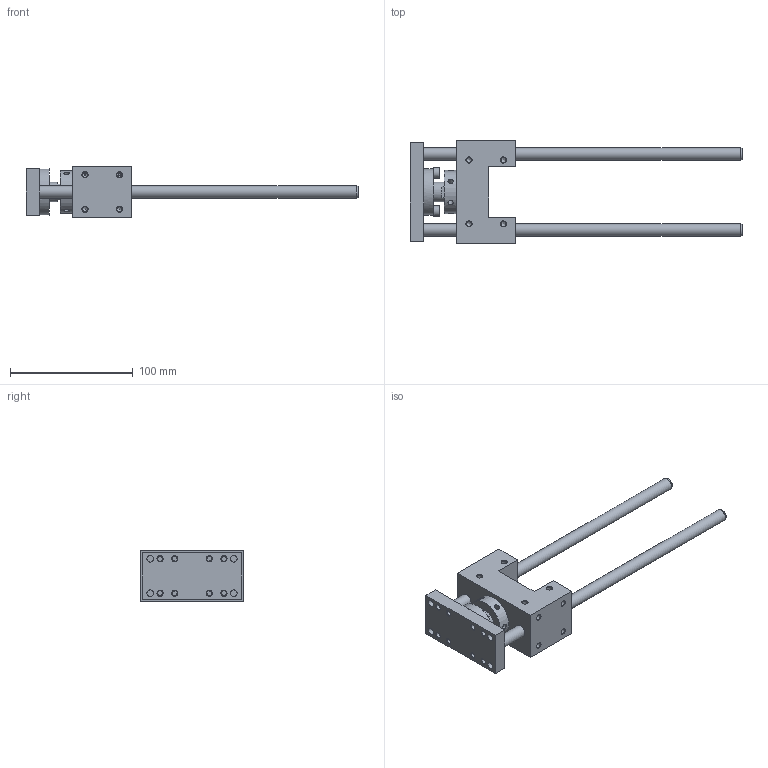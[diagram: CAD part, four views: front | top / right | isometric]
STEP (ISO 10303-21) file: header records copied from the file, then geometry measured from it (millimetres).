
FILE_DESCRIPTION( ( 'STEP AP214' ), '1' );
FILE_NAME( 'U:/Etudes/Top Solid/BIBLIO 3D AVM/TOP/PNEUMATIQUE/GUIDAGES/Type 34 (en U)/_Légère/3433110.step', '2005-05-27T12:16:54', ( ' ' ), ( ' ' ), 'XStep 1.0', ' ', ' ' );
FILE_SCHEMA( ( 'automotive_design' ) );
Length unit declared in the file: metre
Products named in the file (2): 1; 2
Bounding box: 270 x 84 x 42 mm (x, y, z)
Volume: 199733.6 mm3; surface area: 58384 mm2
Topology: 2 solids, 5 shells, 176 faces, 458 edges, 295 vertices
Faces by surface type: cylinder 69, plane 57, cone 50
Full cylindrical faces by diameter (mm): 4.134 x36, 4.2 x6, 5 x4, 5.5 x6, 8.5 x2, 8.647 x2, 10 x4, 16 x1, 18 x1, 20.376 x2, 22.8 x1, 25 x2, 35 x1, 38 x1
Entity records: 6505 total; most frequent: CARTESIAN_POINT 1502, DIRECTION 764, ORIENTED_EDGE 526, EDGE_LOOP 356, AXIS2_PLACEMENT_3D 341, EDGE_CURVE 263, FACE_OUTER_BOUND 245, VERTEX_POINT 231
